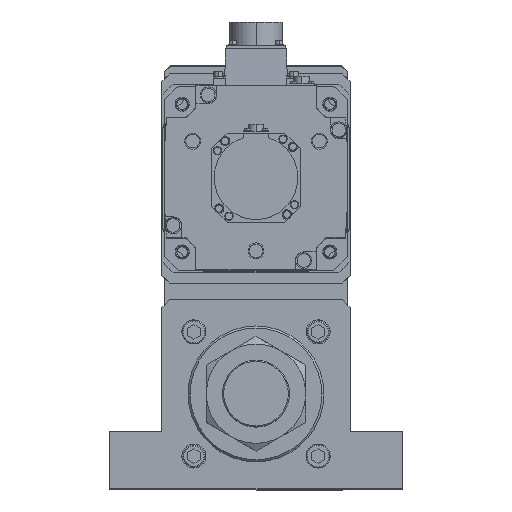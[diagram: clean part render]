
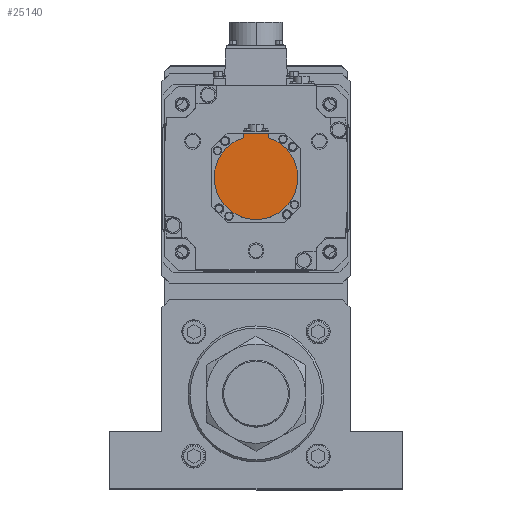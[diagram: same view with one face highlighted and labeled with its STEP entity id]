
A CAD part, top view. The second image highlights one B-rep face of the part: STEP entity #25140.
In plain terms, the highlighted planar face has unit normal (0, 0, 1) as drawn and (0, 0, -1) by its records, which use the part's own axes.
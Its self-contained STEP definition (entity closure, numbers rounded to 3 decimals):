
#1658 = EDGE_CURVE ( 'NONE', #23704, #44822, #19840, .T. ) ;
#1984 = VERTEX_POINT ( 'NONE', #27981 ) ;
#2785 = ORIENTED_EDGE ( 'NONE', *, *, #37334, .F. ) ;
#6546 = EDGE_LOOP ( 'NONE', ( #10987, #2785, #21577, #34104, #35372, #17084 ) ) ;
#6943 = AXIS2_PLACEMENT_3D ( 'NONE', #28194, #11280, #50209 ) ;
#7566 = CARTESIAN_POINT ( 'NONE',  ( 12., -1.25, -268. ) ) ;
#8945 = DIRECTION ( 'NONE',  ( 1., 0., 0. ) ) ;
#10310 = VERTEX_POINT ( 'NONE', #52580 ) ;
#10987 = ORIENTED_EDGE ( 'NONE', *, *, #36031, .T. ) ;
#11050 = EDGE_CURVE ( 'NONE', #25744, #23704, #38272, .T. ) ;
#11280 = DIRECTION ( 'NONE',  ( 0., 0., 1. ) ) ;
#12881 = LINE ( 'NONE', #7566, #54631 ) ;
#13239 = CARTESIAN_POINT ( 'NONE',  ( 0., 0., -268. ) ) ;
#16559 = CARTESIAN_POINT ( 'NONE',  ( -40., 0., -268. ) ) ;
#17084 = ORIENTED_EDGE ( 'NONE', *, *, #23382, .T. ) ;
#17230 = CARTESIAN_POINT ( 'NONE',  ( 0., 0., -268. ) ) ;
#17560 = VECTOR ( 'NONE', #27061, 1000. ) ;
#17655 = AXIS2_PLACEMENT_3D ( 'NONE', #26026, #34868, #8945 ) ;
#18628 = EDGE_CURVE ( 'NONE', #1984, #25744, #12881, .T. ) ;
#19840 = CIRCLE ( 'NONE', #45897, 40. ) ;
#21577 = ORIENTED_EDGE ( 'NONE', *, *, #1658, .F. ) ;
#23146 = CARTESIAN_POINT ( 'NONE',  ( 0., -42.5, -268. ) ) ;
#23382 = EDGE_CURVE ( 'NONE', #1984, #10310, #54014, .T. ) ;
#23704 = VERTEX_POINT ( 'NONE', #26626 ) ;
#25140 = ADVANCED_FACE ( 'NONE', ( #33359 ), #35905, .F. ) ;
#25744 = VERTEX_POINT ( 'NONE', #41932 ) ;
#26026 = CARTESIAN_POINT ( 'NONE',  ( 0., 0., -268. ) ) ;
#26626 = CARTESIAN_POINT ( 'NONE',  ( 40., 0., -268. ) ) ;
#27061 = DIRECTION ( 'NONE',  ( -1., 0., 0. ) ) ;
#27981 = CARTESIAN_POINT ( 'NONE',  ( 12., -42.5, -268. ) ) ;
#28194 = CARTESIAN_POINT ( 'NONE',  ( 0., -1.25, -268. ) ) ;
#28737 = DIRECTION ( 'NONE',  ( 0., 1., 0. ) ) ;
#33057 = CIRCLE ( 'NONE', #17655, 40. ) ;
#33359 = FACE_OUTER_BOUND ( 'NONE', #6546, .T. ) ;
#33886 = DIRECTION ( 'NONE',  ( 0., 0., 1. ) ) ;
#34104 = ORIENTED_EDGE ( 'NONE', *, *, #11050, .F. ) ;
#34868 = DIRECTION ( 'NONE',  ( 0., 0., 1. ) ) ;
#35372 = ORIENTED_EDGE ( 'NONE', *, *, #18628, .F. ) ;
#35905 = PLANE ( 'NONE',  #6943 ) ;
#36031 = EDGE_CURVE ( 'NONE', #10310, #49663, #48431, .T. ) ;
#36795 = CARTESIAN_POINT ( 'NONE',  ( -12., -40.329, -268. ) ) ;
#36890 = AXIS2_PLACEMENT_3D ( 'NONE', #13239, #42326, #46742 ) ;
#37334 = EDGE_CURVE ( 'NONE', #44822, #49663, #33057, .T. ) ;
#38272 = CIRCLE ( 'NONE', #36890, 40. ) ;
#38534 = VECTOR ( 'NONE', #46735, 1000. ) ;
#41932 = CARTESIAN_POINT ( 'NONE',  ( 12., -38.158, -268. ) ) ;
#42326 = DIRECTION ( 'NONE',  ( 0., 0., 1. ) ) ;
#44822 = VERTEX_POINT ( 'NONE', #16559 ) ;
#45741 = CARTESIAN_POINT ( 'NONE',  ( -12., -38.158, -268. ) ) ;
#45897 = AXIS2_PLACEMENT_3D ( 'NONE', #17230, #33886, #46473 ) ;
#46473 = DIRECTION ( 'NONE',  ( 1., 0., 0. ) ) ;
#46735 = DIRECTION ( 'NONE',  ( 0., 1., 0. ) ) ;
#46742 = DIRECTION ( 'NONE',  ( 1., 0., 0. ) ) ;
#48431 = LINE ( 'NONE', #36795, #38534 ) ;
#49663 = VERTEX_POINT ( 'NONE', #45741 ) ;
#50209 = DIRECTION ( 'NONE',  ( 1., 0., 0. ) ) ;
#52580 = CARTESIAN_POINT ( 'NONE',  ( -12., -42.5, -268. ) ) ;
#54014 = LINE ( 'NONE', #23146, #17560 ) ;
#54631 = VECTOR ( 'NONE', #28737, 1000. ) ;
